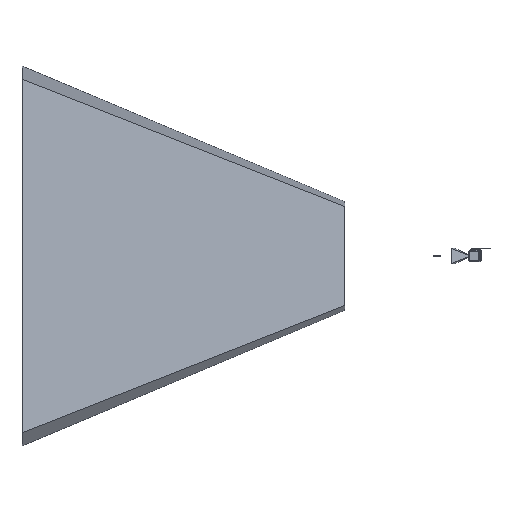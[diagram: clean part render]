
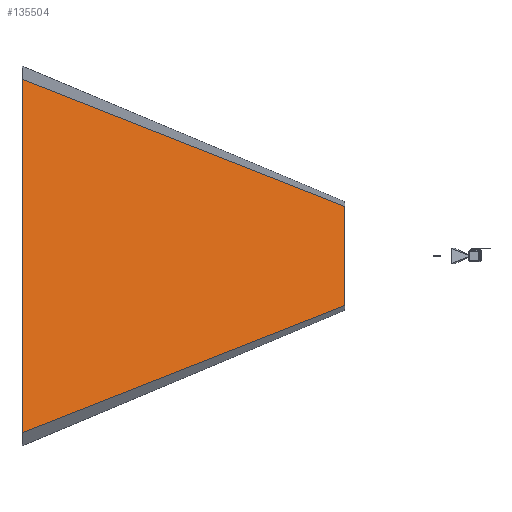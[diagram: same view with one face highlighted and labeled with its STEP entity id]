
A CAD part, left-side view. The second image highlights one B-rep face of the part: STEP entity #135504.
In plain terms, the highlighted planar face has unit normal (-0.924, -0.382, 0).
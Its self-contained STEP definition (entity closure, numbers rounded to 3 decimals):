
#3854 = ORIENTED_EDGE ( 'NONE', *, *, #23791, .F. ) ;
#23791 = EDGE_CURVE ( 'NONE', #368495, #364019, #86289, .T. ) ;
#45195 = LINE ( 'NONE', #199975, #56709 ) ;
#56500 = FACE_OUTER_BOUND ( 'NONE', #142870, .T. ) ;
#56709 = VECTOR ( 'NONE', #105885, 1000. ) ;
#86289 = LINE ( 'NONE', #408280, #134130 ) ;
#92336 = LINE ( 'NONE', #251258, #190025 ) ;
#105885 = DIRECTION ( 'NONE',  ( 0.359, -0.868, 0.342 ) ) ;
#106627 = EDGE_CURVE ( 'NONE', #222710, #398504, #45195, .T. ) ;
#115787 = CARTESIAN_POINT ( 'NONE',  ( -496.574, 850., 0. ) ) ;
#127649 = EDGE_CURVE ( 'NONE', #368495, #222710, #92336, .T. ) ;
#128560 = CARTESIAN_POINT ( 'NONE',  ( -496.574, 850., 330.118 ) ) ;
#134130 = VECTOR ( 'NONE', #312096, 1000. ) ;
#135504 = ADVANCED_FACE ( 'NONE', ( #56500 ), #351198, .T. ) ;
#142870 = EDGE_LOOP ( 'NONE', ( #3854, #200675, #193976, #338284 ) ) ;
#190025 = VECTOR ( 'NONE', #217857, 1000. ) ;
#192170 = DIRECTION ( 'NONE',  ( -0.924, -0.382, 0. ) ) ;
#193976 = ORIENTED_EDGE ( 'NONE', *, *, #106627, .T. ) ;
#199975 = CARTESIAN_POINT ( 'NONE',  ( -166.784, 52.107, -15.987 ) ) ;
#200675 = ORIENTED_EDGE ( 'NONE', *, *, #127649, .T. ) ;
#206160 = CARTESIAN_POINT ( 'NONE',  ( -1385.226, 3000., 1176.574 ) ) ;
#217488 = CARTESIAN_POINT ( 'NONE',  ( -166.784, 52.107, 0. ) ) ;
#217857 = DIRECTION ( 'NONE',  ( 0., 0., -1. ) ) ;
#222710 = VERTEX_POINT ( 'NONE', #227537 ) ;
#227537 = CARTESIAN_POINT ( 'NONE',  ( -1385.226, 3000., -1176.574 ) ) ;
#243388 = DIRECTION ( 'NONE',  ( 0., 0., -1. ) ) ;
#250806 = EDGE_CURVE ( 'NONE', #364019, #398504, #373017, .T. ) ;
#251258 = CARTESIAN_POINT ( 'NONE',  ( -1385.226, 3000., 0. ) ) ;
#271052 = VECTOR ( 'NONE', #243388, 1000. ) ;
#312096 = DIRECTION ( 'NONE',  ( 0.359, -0.868, -0.342 ) ) ;
#338207 = AXIS2_PLACEMENT_3D ( 'NONE', #217488, #192170, #380490 ) ;
#338284 = ORIENTED_EDGE ( 'NONE', *, *, #250806, .F. ) ;
#351198 = PLANE ( 'NONE',  #338207 ) ;
#364019 = VERTEX_POINT ( 'NONE', #128560 ) ;
#368495 = VERTEX_POINT ( 'NONE', #206160 ) ;
#373017 = LINE ( 'NONE', #115787, #271052 ) ;
#380490 = DIRECTION ( 'NONE',  ( 0.382, -0.924, 0. ) ) ;
#383508 = CARTESIAN_POINT ( 'NONE',  ( -496.574, 850., -330.118 ) ) ;
#398504 = VERTEX_POINT ( 'NONE', #383508 ) ;
#408280 = CARTESIAN_POINT ( 'NONE',  ( -166.784, 52.107, 15.987 ) ) ;
